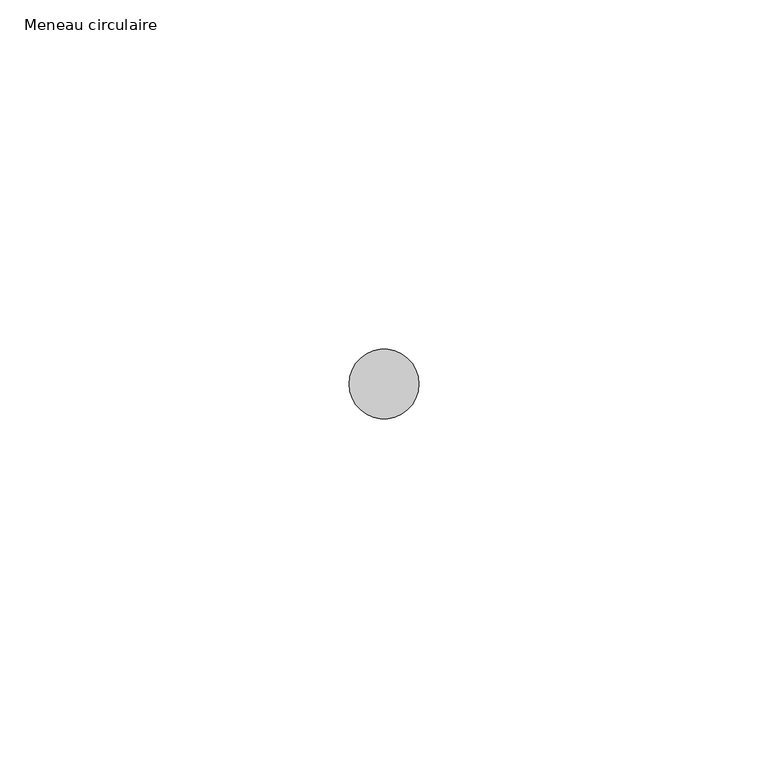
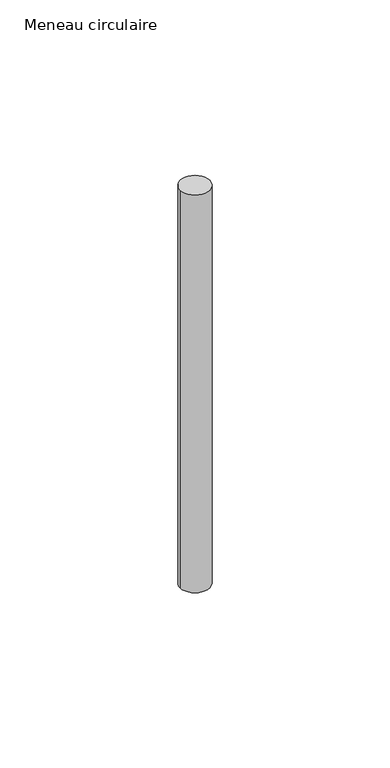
"""IFC4 building model written with IfcOpenShell, lengths in millimetres: member geometry, Meneau circulaire : Diamètre 1cm."""

from ifc_helpers import new_model, si_unit, point, frame, origin, origin_2d, place, context, project, spatial, circle_curve, trimmed, segment, composite_curve, outline, extrude, source, transform, mapped, element, save


def meneau_circulaire_c17056f4(model_context):
    return source(origin(), model_context, "Body", "SweptSolid", [
        extrude(outline(composite_curve([segment(trimmed(circle_curve(origin_2d(), 5.0), [point((5.0, 0.0))], [point((-5.0, 0.0))], False, "CARTESIAN"), True, "CONTINUOUS"), segment(trimmed(circle_curve(origin_2d(), 5.0), [point((-5.0, 0.0))], [point((5.0, 0.0))], False, "CARTESIAN"), True, "CONTINUOUS")], self_intersect=False)), frame((0.0, 0.0, -141.4211122), z_axis=(0.0, 0.0, 1.0), x_axis=(1.0, 0.0, 0.0)), (0.0, 0.0, 1.0), 141.4211122),
    ])


if __name__ == "__main__":
    model = new_model("IFC4")
    model_context = context("Model", 3, world=origin())
    ifc_project = project(units=[si_unit("LENGTHUNIT", "METRE", prefix="MILLI")], contexts=[model_context])
    site = spatial("IfcSite", under=ifc_project)
    building = spatial("IfcBuilding", under=site)
    placement = place(None, origin())
    meneau_circulaire_shape = meneau_circulaire_c17056f4(model_context)
    element("IfcMember", 1, ObjectType="Meneau circulaire : Diamètre 1cm", at=placement, inside=building, context=model_context, shape_type="MappedRepresentation", body=[
        mapped(meneau_circulaire_shape, transform((0.0, 0.0, 0.0), x_axis=(1.0, 0.0, 0.0), y_axis=(0.0, 1.0, 0.0), z_axis=(0.0, 0.0, 1.0))),
    ])
    save(model, "model.ifc")
